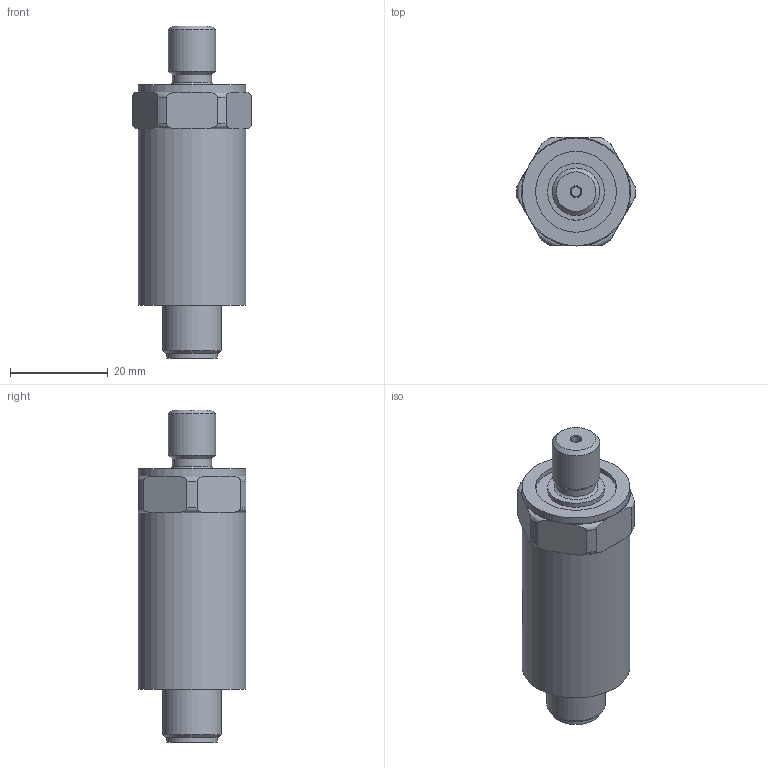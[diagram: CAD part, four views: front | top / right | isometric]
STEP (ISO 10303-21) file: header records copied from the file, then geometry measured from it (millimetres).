
FILE_DESCRIPTION((''),'2;1');
FILE_NAME('R:\Mekanisk design\HBPS\5. STEP files\SML-Pressur Transducer 1_4 BSPP.stp','2015-06-19T08:51:53',('kc'),(''),'Autodesk Inventor 2013','Autodesk Inventor 2013','');
FILE_SCHEMA(('AUTOMOTIVE_DESIGN { 1 0 10303 214 1 1 1 1 }'));
Length unit declared in the file: millimetre
Products named in the file (1): SML-Pressur Transducer 1_4 BSPP
Bounding box: 24.29 x 22 x 67.8 mm (x, y, z)
Volume: 8075.3 mm3; surface area: 8001.4 mm2
Topology: 1 solids, 2 shells, 84 faces, 192 edges, 124 vertices
Faces by surface type: plane 37, cylinder 24, torus 13, cone 5, bspline 5
Full cylindrical faces by diameter (mm): 1 x4, 2 x1, 8 x1, 8.4 x1, 9.7 x1, 10.3 x1, 11.6 x1, 12 x1, 16.5 x1, 20 x1, 22 x2
Entity records: 2732 total; most frequent: CARTESIAN_POINT 908, DIRECTION 366, ORIENTED_EDGE 328, EDGE_CURVE 164, AXIS2_PLACEMENT_3D 160, VERTEX_POINT 121, EDGE_LOOP 121, FACE_OUTER_BOUND 84
